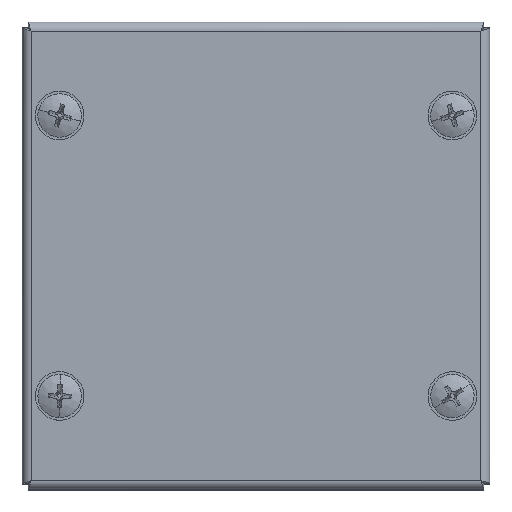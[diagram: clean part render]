
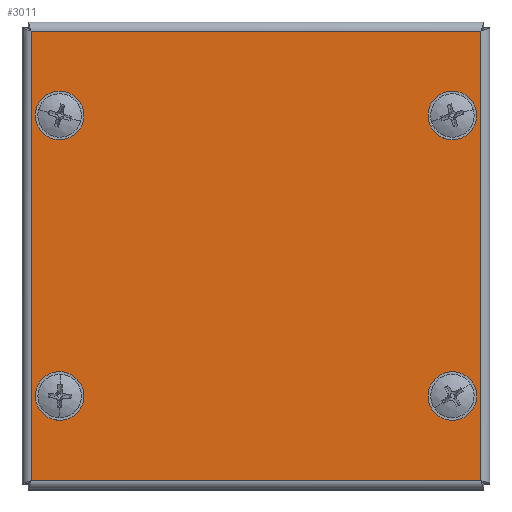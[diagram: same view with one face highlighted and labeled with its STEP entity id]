
A CAD part, top view. The second image highlights one B-rep face of the part: STEP entity #3011.
In plain terms, the highlighted planar face has unit normal (0, 0, 1) as drawn and (0, 0, -1) by its records, which use the part's own axes.
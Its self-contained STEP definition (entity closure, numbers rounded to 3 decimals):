
#84 = CARTESIAN_POINT ( 'NONE',  ( -42., 30., -1.2 ) ) ;
#362 = VECTOR ( 'NONE', #4018, 1000. ) ;
#635 = CARTESIAN_POINT ( 'NONE',  ( -38., 30., -1.2 ) ) ;
#725 = CARTESIAN_POINT ( 'NONE',  ( -48.063, 48.063, -1.2 ) ) ;
#867 = DIRECTION ( 'NONE',  ( 0., 0., 1. ) ) ;
#993 = AXIS2_PLACEMENT_3D ( 'NONE', #1057, #1242, #11500 ) ;
#1057 = CARTESIAN_POINT ( 'NONE',  ( 42., 30., -1.2 ) ) ;
#1072 = EDGE_CURVE ( 'NONE', #1885, #13344, #8698, .T. ) ;
#1134 = EDGE_CURVE ( 'NONE', #4035, #17230, #16493, .T. ) ;
#1197 = ORIENTED_EDGE ( 'NONE', *, *, #1134, .T. ) ;
#1242 = DIRECTION ( 'NONE',  ( 0., 0., 1. ) ) ;
#1417 = DIRECTION ( 'NONE',  ( 0., -1., 0. ) ) ;
#1885 = VERTEX_POINT ( 'NONE', #12288 ) ;
#1981 = PLANE ( 'NONE',  #9236 ) ;
#2149 = EDGE_LOOP ( 'NONE', ( #7457, #11495 ) ) ;
#2180 = VECTOR ( 'NONE', #1417, 1000. ) ;
#2183 = CARTESIAN_POINT ( 'NONE',  ( 0., 0., -1.2 ) ) ;
#2210 = DIRECTION ( 'NONE',  ( 1., 0., 0. ) ) ;
#2263 = CARTESIAN_POINT ( 'NONE',  ( 42., 30., -1.2 ) ) ;
#2604 = VERTEX_POINT ( 'NONE', #2947 ) ;
#2691 = FACE_BOUND ( 'NONE', #6057, .T. ) ;
#2847 = LINE ( 'NONE', #12971, #2180 ) ;
#2853 = AXIS2_PLACEMENT_3D ( 'NONE', #10443, #6064, #8901 ) ;
#2917 = CARTESIAN_POINT ( 'NONE',  ( -42., -30., -1.2 ) ) ;
#2947 = CARTESIAN_POINT ( 'NONE',  ( -48.063, -48.063, -1.2 ) ) ;
#2978 = DIRECTION ( 'NONE',  ( 1., 0., 0. ) ) ;
#3011 = ADVANCED_FACE ( 'NONE', ( #2691, #13479, #13951, #14173, #15332 ), #1981, .F. ) ;
#3038 = ORIENTED_EDGE ( 'NONE', *, *, #7203, .T. ) ;
#3415 = EDGE_CURVE ( 'NONE', #8599, #13209, #9573, .T. ) ;
#3695 = CARTESIAN_POINT ( 'NONE',  ( -38., -30., -1.2 ) ) ;
#3707 = DIRECTION ( 'NONE',  ( 1., 0., 0. ) ) ;
#4018 = DIRECTION ( 'NONE',  ( -1., 0., 0. ) ) ;
#4035 = VERTEX_POINT ( 'NONE', #635 ) ;
#4393 = EDGE_CURVE ( 'NONE', #13818, #4777, #9826, .T. ) ;
#4777 = VERTEX_POINT ( 'NONE', #7543 ) ;
#5024 = CARTESIAN_POINT ( 'NONE',  ( -48.063, -48.093, -1.2 ) ) ;
#5323 = CARTESIAN_POINT ( 'NONE',  ( 42., -30., -1.2 ) ) ;
#5414 = VECTOR ( 'NONE', #8107, 1000. ) ;
#5448 = AXIS2_PLACEMENT_3D ( 'NONE', #9580, #7902, #10931 ) ;
#5704 = EDGE_CURVE ( 'NONE', #2604, #18140, #12061, .T. ) ;
#5976 = AXIS2_PLACEMENT_3D ( 'NONE', #2263, #8083, #8337 ) ;
#6026 = EDGE_LOOP ( 'NONE', ( #1197, #3038 ) ) ;
#6057 = EDGE_LOOP ( 'NONE', ( #9530, #12621 ) ) ;
#6064 = DIRECTION ( 'NONE',  ( 0., 0., 1. ) ) ;
#6285 = EDGE_CURVE ( 'NONE', #13344, #1885, #7692, .T. ) ;
#7102 = VECTOR ( 'NONE', #18214, 1000. ) ;
#7155 = AXIS2_PLACEMENT_3D ( 'NONE', #5323, #867, #11121 ) ;
#7203 = EDGE_CURVE ( 'NONE', #17230, #4035, #10450, .T. ) ;
#7411 = AXIS2_PLACEMENT_3D ( 'NONE', #2917, #16134, #2978 ) ;
#7435 = DIRECTION ( 'NONE',  ( 0., 0., 1. ) ) ;
#7457 = ORIENTED_EDGE ( 'NONE', *, *, #9810, .T. ) ;
#7543 = CARTESIAN_POINT ( 'NONE',  ( 46., -30., -1.2 ) ) ;
#7610 = VERTEX_POINT ( 'NONE', #11789 ) ;
#7692 = CIRCLE ( 'NONE', #5976, 4. ) ;
#7902 = DIRECTION ( 'NONE',  ( 0., 0., 1. ) ) ;
#8035 = CARTESIAN_POINT ( 'NONE',  ( -42., 30., -1.2 ) ) ;
#8083 = DIRECTION ( 'NONE',  ( 0., 0., 1. ) ) ;
#8107 = DIRECTION ( 'NONE',  ( 0., 1., 0. ) ) ;
#8337 = DIRECTION ( 'NONE',  ( 1., 0., 0. ) ) ;
#8479 = AXIS2_PLACEMENT_3D ( 'NONE', #8035, #9650, #2210 ) ;
#8599 = VERTEX_POINT ( 'NONE', #3695 ) ;
#8698 = CIRCLE ( 'NONE', #993, 4. ) ;
#8753 = CIRCLE ( 'NONE', #7155, 4. ) ;
#8901 = DIRECTION ( 'NONE',  ( 1., 0., 0. ) ) ;
#9236 = AXIS2_PLACEMENT_3D ( 'NONE', #2183, #12504, #3707 ) ;
#9348 = ORIENTED_EDGE ( 'NONE', *, *, #5704, .T. ) ;
#9466 = EDGE_LOOP ( 'NONE', ( #9348, #15936, #13936, #14013 ) ) ;
#9530 = ORIENTED_EDGE ( 'NONE', *, *, #3415, .T. ) ;
#9573 = CIRCLE ( 'NONE', #2853, 4. ) ;
#9580 = CARTESIAN_POINT ( 'NONE',  ( 42., -30., -1.2 ) ) ;
#9650 = DIRECTION ( 'NONE',  ( 0., 0., 1. ) ) ;
#9810 = EDGE_CURVE ( 'NONE', #4777, #13818, #8753, .T. ) ;
#9826 = CIRCLE ( 'NONE', #5448, 4. ) ;
#10262 = ORIENTED_EDGE ( 'NONE', *, *, #6285, .T. ) ;
#10443 = CARTESIAN_POINT ( 'NONE',  ( -42., -30., -1.2 ) ) ;
#10450 = CIRCLE ( 'NONE', #8479, 4. ) ;
#10599 = LINE ( 'NONE', #18025, #7102 ) ;
#10931 = DIRECTION ( 'NONE',  ( 1., 0., 0. ) ) ;
#11121 = DIRECTION ( 'NONE',  ( 1., 0., 0. ) ) ;
#11135 = CIRCLE ( 'NONE', #7411, 4. ) ;
#11495 = ORIENTED_EDGE ( 'NONE', *, *, #4393, .T. ) ;
#11500 = DIRECTION ( 'NONE',  ( 1., 0., 0. ) ) ;
#11789 = CARTESIAN_POINT ( 'NONE',  ( 48.063, 48.063, -1.2 ) ) ;
#11810 = EDGE_CURVE ( 'NONE', #18140, #7610, #10599, .T. ) ;
#12061 = LINE ( 'NONE', #5024, #5414 ) ;
#12188 = VERTEX_POINT ( 'NONE', #16289 ) ;
#12288 = CARTESIAN_POINT ( 'NONE',  ( 38., 30., -1.2 ) ) ;
#12504 = DIRECTION ( 'NONE',  ( 0., 0., 1. ) ) ;
#12554 = CARTESIAN_POINT ( 'NONE',  ( -46., -30., -1.2 ) ) ;
#12621 = ORIENTED_EDGE ( 'NONE', *, *, #18941, .T. ) ;
#12971 = CARTESIAN_POINT ( 'NONE',  ( 48.063, 48.093, -1.2 ) ) ;
#13209 = VERTEX_POINT ( 'NONE', #12554 ) ;
#13296 = EDGE_CURVE ( 'NONE', #12188, #2604, #16175, .T. ) ;
#13344 = VERTEX_POINT ( 'NONE', #18769 ) ;
#13479 = FACE_BOUND ( 'NONE', #2149, .T. ) ;
#13818 = VERTEX_POINT ( 'NONE', #14429 ) ;
#13936 = ORIENTED_EDGE ( 'NONE', *, *, #14910, .T. ) ;
#13951 = FACE_BOUND ( 'NONE', #14327, .T. ) ;
#14013 = ORIENTED_EDGE ( 'NONE', *, *, #13296, .T. ) ;
#14173 = FACE_BOUND ( 'NONE', #6026, .T. ) ;
#14327 = EDGE_LOOP ( 'NONE', ( #10262, #15940 ) ) ;
#14429 = CARTESIAN_POINT ( 'NONE',  ( 38., -30., -1.2 ) ) ;
#14575 = DIRECTION ( 'NONE',  ( 1., 0., 0. ) ) ;
#14910 = EDGE_CURVE ( 'NONE', #7610, #12188, #2847, .T. ) ;
#15332 = FACE_OUTER_BOUND ( 'NONE', #9466, .T. ) ;
#15667 = CARTESIAN_POINT ( 'NONE',  ( -46., 30., -1.2 ) ) ;
#15936 = ORIENTED_EDGE ( 'NONE', *, *, #11810, .T. ) ;
#15940 = ORIENTED_EDGE ( 'NONE', *, *, #1072, .T. ) ;
#16134 = DIRECTION ( 'NONE',  ( 0., 0., 1. ) ) ;
#16175 = LINE ( 'NONE', #17311, #362 ) ;
#16289 = CARTESIAN_POINT ( 'NONE',  ( 48.063, -48.063, -1.2 ) ) ;
#16493 = CIRCLE ( 'NONE', #18879, 4. ) ;
#17230 = VERTEX_POINT ( 'NONE', #15667 ) ;
#17311 = CARTESIAN_POINT ( 'NONE',  ( 48.093, -48.063, -1.2 ) ) ;
#18025 = CARTESIAN_POINT ( 'NONE',  ( -48.093, 48.063, -1.2 ) ) ;
#18140 = VERTEX_POINT ( 'NONE', #725 ) ;
#18214 = DIRECTION ( 'NONE',  ( 1., 0., 0. ) ) ;
#18769 = CARTESIAN_POINT ( 'NONE',  ( 46., 30., -1.2 ) ) ;
#18879 = AXIS2_PLACEMENT_3D ( 'NONE', #84, #7435, #14575 ) ;
#18941 = EDGE_CURVE ( 'NONE', #13209, #8599, #11135, .T. ) ;
